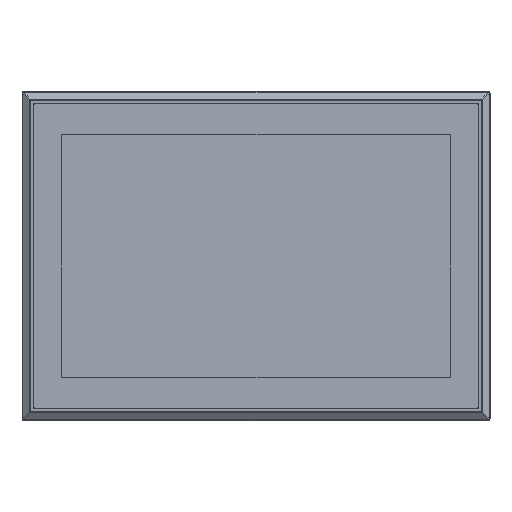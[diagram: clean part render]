
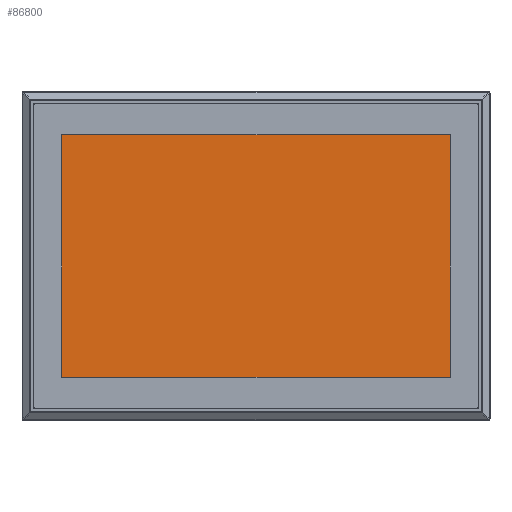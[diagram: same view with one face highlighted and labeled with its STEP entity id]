
A CAD part, top view. The second image highlights one B-rep face of the part: STEP entity #86800.
In plain terms, the highlighted planar face has unit normal (0, 0, 1).
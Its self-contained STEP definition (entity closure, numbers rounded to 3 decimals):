
#4395 = VERTEX_POINT ( 'NONE', #132917 ) ;
#24293 = DIRECTION ( 'NONE',  ( -1., 0., 0. ) ) ;
#27980 = DIRECTION ( 'NONE',  ( 1., 0., 0. ) ) ;
#29269 = AXIS2_PLACEMENT_3D ( 'NONE', #122685, #198700, #27980 ) ;
#49013 = VECTOR ( 'NONE', #24293, 1000. ) ;
#55626 = VERTEX_POINT ( 'NONE', #196919 ) ;
#58792 = VECTOR ( 'NONE', #165801, 1000. ) ;
#59211 = CARTESIAN_POINT ( 'NONE',  ( -148.44, -81.6, 8.6 ) ) ;
#67808 = VECTOR ( 'NONE', #82669, 1000. ) ;
#77614 = VECTOR ( 'NONE', #226316, 1000. ) ;
#79832 = ORIENTED_EDGE ( 'NONE', *, *, #234192, .F. ) ;
#82669 = DIRECTION ( 'NONE',  ( 0., -1., 0. ) ) ;
#86606 = EDGE_CURVE ( 'NONE', #190492, #4395, #194997, .T. ) ;
#86800 = ADVANCED_FACE ( 'NONE', ( #148455 ), #161349, .T. ) ;
#96711 = LINE ( 'NONE', #229994, #77614 ) ;
#107027 = EDGE_CURVE ( 'NONE', #4395, #155485, #96711, .T. ) ;
#116179 = ORIENTED_EDGE ( 'NONE', *, *, #107027, .F. ) ;
#120063 = LINE ( 'NONE', #196058, #67808 ) ;
#122685 = CARTESIAN_POINT ( 'NONE',  ( -148.44, -101.6, 8.6 ) ) ;
#132917 = CARTESIAN_POINT ( 'NONE',  ( -130.56, -81.6, 8.6 ) ) ;
#143467 = LINE ( 'NONE', #179595, #58792 ) ;
#148455 = FACE_OUTER_BOUND ( 'NONE', #165722, .T. ) ;
#152554 = EDGE_CURVE ( 'NONE', #155485, #55626, #143467, .T. ) ;
#155485 = VERTEX_POINT ( 'NONE', #237171 ) ;
#161349 = PLANE ( 'NONE',  #29269 ) ;
#165722 = EDGE_LOOP ( 'NONE', ( #79832, #203179, #116179, #174779 ) ) ;
#165801 = DIRECTION ( 'NONE',  ( 1., 0., 0. ) ) ;
#174779 = ORIENTED_EDGE ( 'NONE', *, *, #86606, .F. ) ;
#179595 = CARTESIAN_POINT ( 'NONE',  ( -148.44, 81.6, 8.6 ) ) ;
#188063 = CARTESIAN_POINT ( 'NONE',  ( 130.56, -81.6, 8.6 ) ) ;
#190492 = VERTEX_POINT ( 'NONE', #188063 ) ;
#194997 = LINE ( 'NONE', #59211, #49013 ) ;
#196058 = CARTESIAN_POINT ( 'NONE',  ( 130.56, -101.6, 8.6 ) ) ;
#196919 = CARTESIAN_POINT ( 'NONE',  ( 130.56, 81.6, 8.6 ) ) ;
#198700 = DIRECTION ( 'NONE',  ( 0., 0., 1. ) ) ;
#203179 = ORIENTED_EDGE ( 'NONE', *, *, #152554, .F. ) ;
#226316 = DIRECTION ( 'NONE',  ( 0., 1., 0. ) ) ;
#229994 = CARTESIAN_POINT ( 'NONE',  ( -130.56, -101.6, 8.6 ) ) ;
#234192 = EDGE_CURVE ( 'NONE', #55626, #190492, #120063, .T. ) ;
#237171 = CARTESIAN_POINT ( 'NONE',  ( -130.56, 81.6, 8.6 ) ) ;
